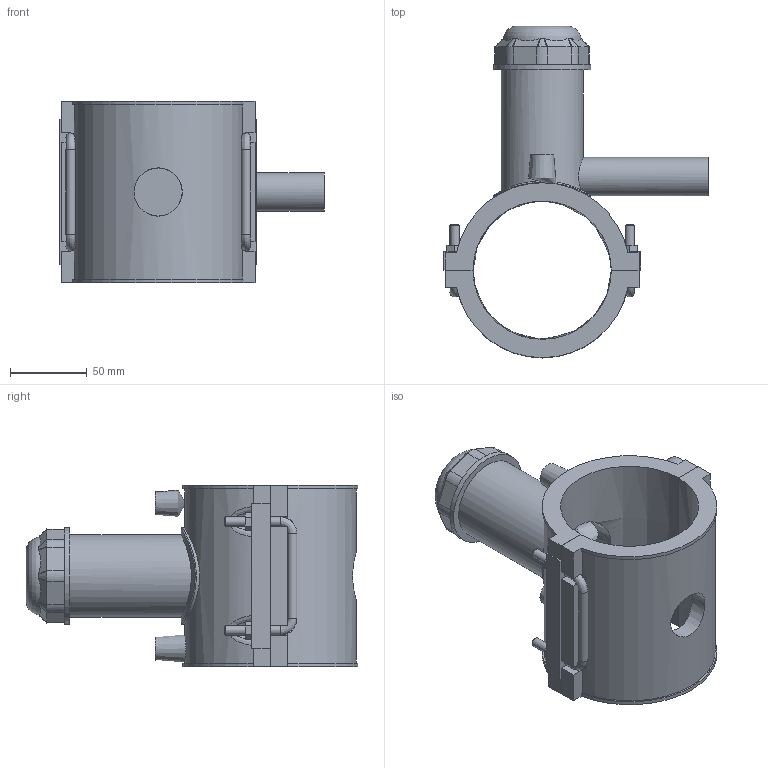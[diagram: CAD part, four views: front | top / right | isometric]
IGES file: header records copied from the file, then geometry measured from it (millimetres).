
Global section: file name: 496304090025.ipt; native system: Autodesk Inventor 2015; preprocessor: unknown; author: KIM; date: 20190124.130738; units: millimetre
Bounding box: 172 x 215.92 x 118 mm (x, y, z)
Volume: 574146.2 mm3; surface area: 146365.2 mm2
Topology: 2 solids, 4 shells, 224 faces, 567 edges, 364 vertices
Faces by surface type: plane 125, cylinder 36, revolution 28, bspline 21, cone 14
Full cylindrical faces by diameter (mm): 4 x2, 6 x8, 25 x1, 53.55 x1, 63 x2
